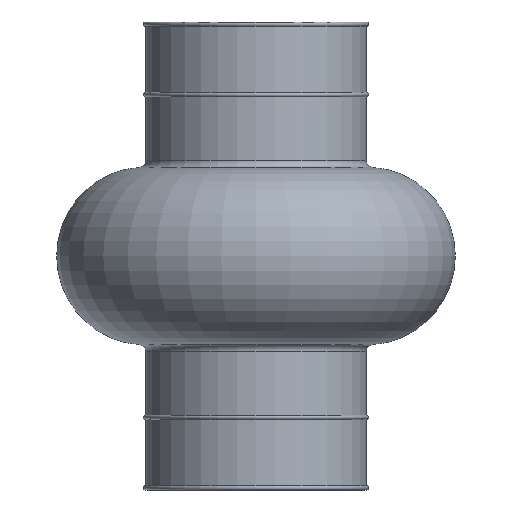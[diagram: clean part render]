
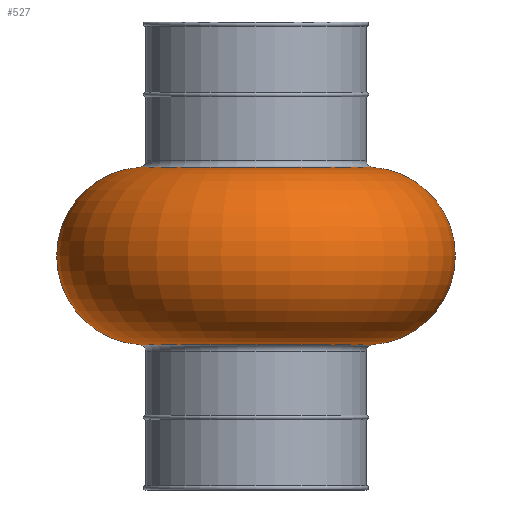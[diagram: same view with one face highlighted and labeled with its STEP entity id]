
A CAD part, left-side view. The second image highlights one B-rep face of the part: STEP entity #527.
In plain terms, the highlighted toroidal (fillet/blend) face has major radius 25.5 mm and minor radius 20.5 mm.
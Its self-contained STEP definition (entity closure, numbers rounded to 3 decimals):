
#32 = AXIS2_PLACEMENT_3D ( 'NONE', #408, #804, #748 ) ;
#48 = FACE_OUTER_BOUND ( 'NONE', #200, .T. ) ;
#55 = EDGE_CURVE ( 'NONE', #444, #828, #861, .T. ) ;
#67 = CIRCLE ( 'NONE', #564, 20.5 ) ;
#82 = DIRECTION ( 'NONE',  ( 0., 0., -1. ) ) ;
#94 = CARTESIAN_POINT ( 'NONE',  ( 0., 0., 0. ) ) ;
#150 = EDGE_CURVE ( 'NONE', #188, #444, #407, .T. ) ;
#181 = AXIS2_PLACEMENT_3D ( 'NONE', #94, #82, #756 ) ;
#188 = VERTEX_POINT ( 'NONE', #278 ) ;
#200 = EDGE_LOOP ( 'NONE', ( #379, #386, #334, #720 ) ) ;
#217 = CARTESIAN_POINT ( 'NONE',  ( 0., 26.898, -20.452 ) ) ;
#246 = AXIS2_PLACEMENT_3D ( 'NONE', #488, #365, #618 ) ;
#278 = CARTESIAN_POINT ( 'NONE',  ( 0., 26.898, 20.452 ) ) ;
#303 = EDGE_CURVE ( 'NONE', #643, #828, #67, .T. ) ;
#307 = CARTESIAN_POINT ( 'NONE',  ( 0., 0., 20.452 ) ) ;
#329 = AXIS2_PLACEMENT_3D ( 'NONE', #307, #781, #384 ) ;
#331 = TOROIDAL_SURFACE ( 'NONE', #181, 25.5, 20.5 ) ;
#334 = ORIENTED_EDGE ( 'NONE', *, *, #150, .T. ) ;
#335 = EDGE_CURVE ( 'NONE', #643, #188, #727, .T. ) ;
#365 = DIRECTION ( 'NONE',  ( -1., 0., 0. ) ) ;
#379 = ORIENTED_EDGE ( 'NONE', *, *, #303, .F. ) ;
#384 = DIRECTION ( 'NONE',  ( 0., 1., 0. ) ) ;
#386 = ORIENTED_EDGE ( 'NONE', *, *, #335, .T. ) ;
#407 = CIRCLE ( 'NONE', #246, 20.5 ) ;
#408 = CARTESIAN_POINT ( 'NONE',  ( 0., 0., -20.452 ) ) ;
#444 = VERTEX_POINT ( 'NONE', #217 ) ;
#477 = CARTESIAN_POINT ( 'NONE',  ( 0., -26.898, -20.452 ) ) ;
#488 = CARTESIAN_POINT ( 'NONE',  ( 0., 25.5, 0. ) ) ;
#527 = ADVANCED_FACE ( 'NONE', ( #48 ), #331, .T. ) ;
#564 = AXIS2_PLACEMENT_3D ( 'NONE', #714, #857, #587 ) ;
#587 = DIRECTION ( 'NONE',  ( 0., 1., 0. ) ) ;
#618 = DIRECTION ( 'NONE',  ( 0., 0., 1. ) ) ;
#643 = VERTEX_POINT ( 'NONE', #840 ) ;
#714 = CARTESIAN_POINT ( 'NONE',  ( 0., -25.5, 0. ) ) ;
#720 = ORIENTED_EDGE ( 'NONE', *, *, #55, .T. ) ;
#727 = CIRCLE ( 'NONE', #329, 26.898 ) ;
#748 = DIRECTION ( 'NONE',  ( 0., -1., 0. ) ) ;
#756 = DIRECTION ( 'NONE',  ( 0., 1., 0. ) ) ;
#781 = DIRECTION ( 'NONE',  ( 0., 0., -1. ) ) ;
#804 = DIRECTION ( 'NONE',  ( 0., 0., 1. ) ) ;
#828 = VERTEX_POINT ( 'NONE', #477 ) ;
#840 = CARTESIAN_POINT ( 'NONE',  ( 0., -26.898, 20.452 ) ) ;
#857 = DIRECTION ( 'NONE',  ( 1., 0., 0. ) ) ;
#861 = CIRCLE ( 'NONE', #32, 26.898 ) ;
